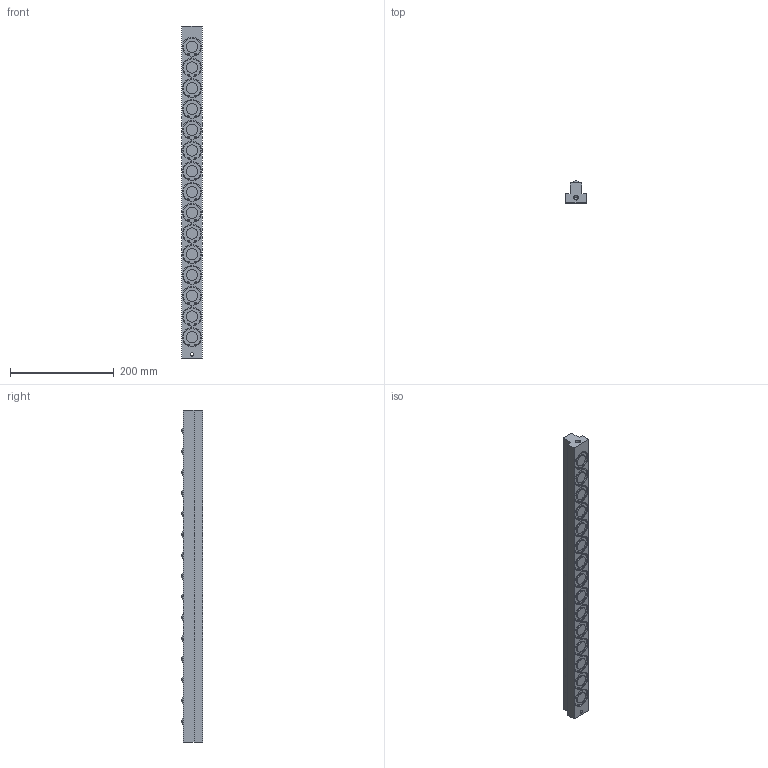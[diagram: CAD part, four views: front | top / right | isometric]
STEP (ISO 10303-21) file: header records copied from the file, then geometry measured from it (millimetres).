
FILE_DESCRIPTION (( 'STEP AP203' ), '1' );
FILE_NAME ('PVL30T-15.STEP', '2015-12-24T08:35:47', ( '' ), ( '' ), 'SwSTEP 2.0', 'SolidWorks 2013', '' );
FILE_SCHEMA (( 'CONFIG_CONTROL_DESIGN' ));
Length unit declared in the file: millimetre
Products named in the file (1): PVL30T-15
Bounding box: 40 x 42 x 640 mm (x, y, z)
Volume: 724131.6 mm3; surface area: 121207.1 mm2
Topology: 1 solids, 1 shells, 487 faces, 1237 edges, 828 vertices
Faces by surface type: cylinder 306, plane 147, sphere 30, cone 4
Entity records: 15208 total; most frequent: DIRECTION 2977, CARTESIAN_POINT 2551, ORIENTED_EDGE 2470, AXIS2_PLACEMENT_3D 1254, EDGE_CURVE 1235, VERTEX_POINT 828, CIRCLE 766, EDGE_LOOP 567
